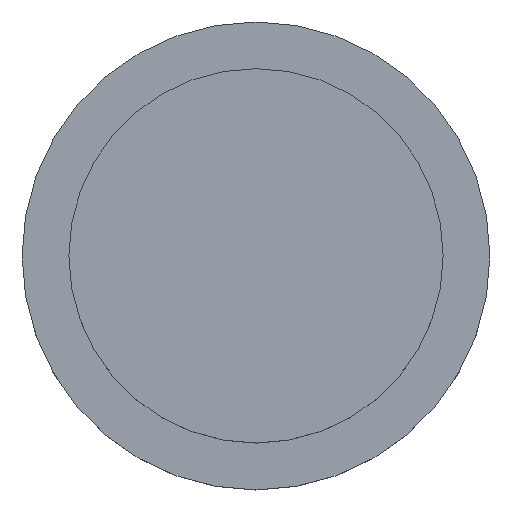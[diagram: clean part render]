
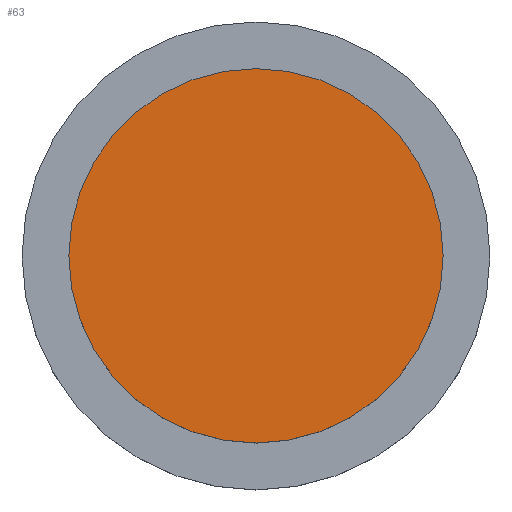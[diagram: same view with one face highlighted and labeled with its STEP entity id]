
A CAD part, top view. The second image highlights one B-rep face of the part: STEP entity #63.
In plain terms, the highlighted planar face has unit normal (0, 0, 1).
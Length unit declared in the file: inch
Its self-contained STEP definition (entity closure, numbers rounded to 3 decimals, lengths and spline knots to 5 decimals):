
#16=PLANE('',#84);
#20=FACE_OUTER_BOUND('',#25,.T.);
#25=EDGE_LOOP('',(#52));
#34=CIRCLE('',#82,0.75);
#38=VERTEX_POINT('',#114);
#42=EDGE_CURVE('',#38,#38,#34,.T.);
#52=ORIENTED_EDGE('',*,*,#42,.T.);
#63=ADVANCED_FACE('',(#20),#16,.T.);
#82=AXIS2_PLACEMENT_3D('',#115,#94,#95);
#84=AXIS2_PLACEMENT_3D('',#119,#99,#100);
#94=DIRECTION('center_axis',(0.,0.,1.));
#95=DIRECTION('ref_axis',(1.,0.,0.));
#99=DIRECTION('center_axis',(0.,0.,1.));
#100=DIRECTION('ref_axis',(1.,0.,0.));
#114=CARTESIAN_POINT('',(-0.75,0.,0.5));
#115=CARTESIAN_POINT('Origin',(0.,0.,0.5));
#119=CARTESIAN_POINT('Origin',(0.,0.,0.5));
